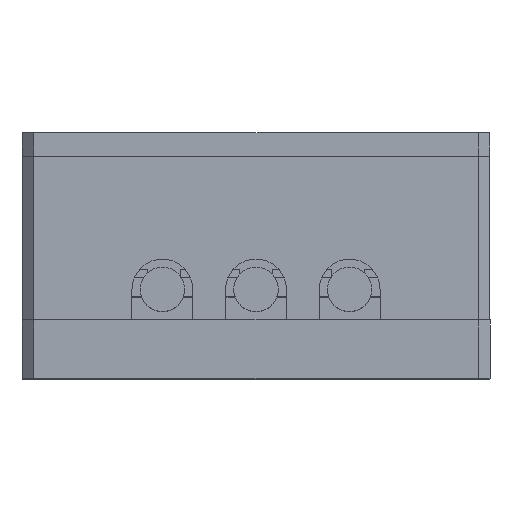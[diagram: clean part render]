
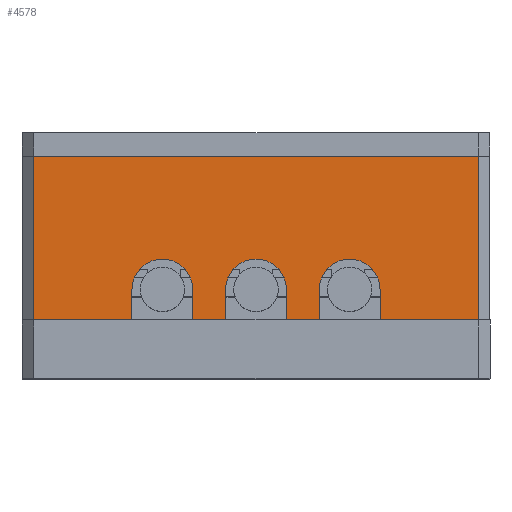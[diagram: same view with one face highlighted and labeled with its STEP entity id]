
A CAD part, top view. The second image highlights one B-rep face of the part: STEP entity #4578.
In plain terms, the highlighted planar face has unit normal (0, 0, 1).
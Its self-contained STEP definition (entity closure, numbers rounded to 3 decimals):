
#129 = CARTESIAN_POINT ( 'NONE',  ( -20., 0., 20. ) ) ;
#133 = EDGE_CURVE ( 'NONE', #3969, #7578, #1209, .T. ) ;
#148 = DIRECTION ( 'NONE',  ( 0., 0., 1. ) ) ;
#168 = CARTESIAN_POINT ( 'NONE',  ( 19., 14., 20. ) ) ;
#193 = DIRECTION ( 'NONE',  ( 0., -1., 0. ) ) ;
#265 = CARTESIAN_POINT ( 'NONE',  ( 5.4, 0., 20. ) ) ;
#371 = CARTESIAN_POINT ( 'NONE',  ( -20., 14., 20. ) ) ;
#472 = VECTOR ( 'NONE', #5222, 1000. ) ;
#493 = CARTESIAN_POINT ( 'NONE',  ( 2.6, 2.6, 20. ) ) ;
#500 = VERTEX_POINT ( 'NONE', #3177 ) ;
#804 = DIRECTION ( 'NONE',  ( -1., 0., 0. ) ) ;
#851 = VECTOR ( 'NONE', #4941, 1000. ) ;
#899 = LINE ( 'NONE', #265, #3714 ) ;
#986 = CARTESIAN_POINT ( 'NONE',  ( -5.4, 2.6, 20. ) ) ;
#990 = ORIENTED_EDGE ( 'NONE', *, *, #3236, .F. ) ;
#1083 = CARTESIAN_POINT ( 'NONE',  ( -5.4, 2.6, 20. ) ) ;
#1209 = LINE ( 'NONE', #493, #1779 ) ;
#1301 = CIRCLE ( 'NONE', #6735, 2.6 ) ;
#1356 = CARTESIAN_POINT ( 'NONE',  ( -20., 0., 20. ) ) ;
#1436 = ORIENTED_EDGE ( 'NONE', *, *, #6503, .F. ) ;
#1516 = CARTESIAN_POINT ( 'NONE',  ( -20., 14., 20. ) ) ;
#1517 = CARTESIAN_POINT ( 'NONE',  ( -20., 0., 20. ) ) ;
#1528 = VERTEX_POINT ( 'NONE', #4165 ) ;
#1531 = ORIENTED_EDGE ( 'NONE', *, *, #4964, .T. ) ;
#1701 = LINE ( 'NONE', #1356, #851 ) ;
#1729 = VECTOR ( 'NONE', #6022, 1000. ) ;
#1779 = VECTOR ( 'NONE', #3539, 1000. ) ;
#1817 = DIRECTION ( 'NONE',  ( 0., -1., 0. ) ) ;
#1827 = VECTOR ( 'NONE', #6046, 1000. ) ;
#2081 = LINE ( 'NONE', #371, #472 ) ;
#2199 = CARTESIAN_POINT ( 'NONE',  ( -2.6, 2.6, 20. ) ) ;
#2225 = DIRECTION ( 'NONE',  ( 1., 0., 0. ) ) ;
#2258 = VECTOR ( 'NONE', #2604, 1000. ) ;
#2386 = CARTESIAN_POINT ( 'NONE',  ( 8., 2.6, 20. ) ) ;
#2387 = CARTESIAN_POINT ( 'NONE',  ( 10.6, 2.6, 20. ) ) ;
#2397 = ORIENTED_EDGE ( 'NONE', *, *, #6827, .F. ) ;
#2437 = ORIENTED_EDGE ( 'NONE', *, *, #5845, .F. ) ;
#2517 = CARTESIAN_POINT ( 'NONE',  ( -8., 2.6, 20. ) ) ;
#2604 = DIRECTION ( 'NONE',  ( 1., 0., 0. ) ) ;
#2620 = CARTESIAN_POINT ( 'NONE',  ( -2.6, 0., 20. ) ) ;
#2756 = LINE ( 'NONE', #2387, #1729 ) ;
#2957 = CARTESIAN_POINT ( 'NONE',  ( -19., 14., 20. ) ) ;
#2970 = EDGE_CURVE ( 'NONE', #3966, #3160, #899, .T. ) ;
#3035 = FACE_OUTER_BOUND ( 'NONE', #5792, .T. ) ;
#3053 = EDGE_CURVE ( 'NONE', #3969, #3160, #3360, .T. ) ;
#3057 = VERTEX_POINT ( 'NONE', #2199 ) ;
#3160 = VERTEX_POINT ( 'NONE', #4107 ) ;
#3170 = CARTESIAN_POINT ( 'NONE',  ( -5.4, 0., 20. ) ) ;
#3177 = CARTESIAN_POINT ( 'NONE',  ( 10.6, 2.6, 20. ) ) ;
#3236 = EDGE_CURVE ( 'NONE', #3057, #7068, #3705, .T. ) ;
#3274 = CARTESIAN_POINT ( 'NONE',  ( 10.6, 0., 20. ) ) ;
#3315 = VERTEX_POINT ( 'NONE', #4304 ) ;
#3360 = LINE ( 'NONE', #1517, #3900 ) ;
#3430 = EDGE_CURVE ( 'NONE', #6289, #1528, #4177, .T. ) ;
#3437 = DIRECTION ( 'NONE',  ( 0., -1., 0. ) ) ;
#3448 = ORIENTED_EDGE ( 'NONE', *, *, #3430, .T. ) ;
#3458 = DIRECTION ( 'NONE',  ( 0., -1., 0. ) ) ;
#3539 = DIRECTION ( 'NONE',  ( 0., 1., 0. ) ) ;
#3565 = VECTOR ( 'NONE', #4505, 1000. ) ;
#3606 = ORIENTED_EDGE ( 'NONE', *, *, #3053, .T. ) ;
#3678 = ORIENTED_EDGE ( 'NONE', *, *, #7215, .T. ) ;
#3705 = LINE ( 'NONE', #2620, #6589 ) ;
#3714 = VECTOR ( 'NONE', #3437, 1000. ) ;
#3732 = AXIS2_PLACEMENT_3D ( 'NONE', #1516, #6309, #4534 ) ;
#3896 = ORIENTED_EDGE ( 'NONE', *, *, #6258, .T. ) ;
#3900 = VECTOR ( 'NONE', #2225, 1000. ) ;
#3917 = DIRECTION ( 'NONE',  ( 0., 0., 1. ) ) ;
#3952 = CARTESIAN_POINT ( 'NONE',  ( -10.6, 0., 20. ) ) ;
#3962 = EDGE_CURVE ( 'NONE', #4128, #500, #2756, .T. ) ;
#3966 = VERTEX_POINT ( 'NONE', #5407 ) ;
#3969 = VERTEX_POINT ( 'NONE', #5947 ) ;
#4004 = CARTESIAN_POINT ( 'NONE',  ( -10.6, 2.6, 20. ) ) ;
#4107 = CARTESIAN_POINT ( 'NONE',  ( 5.4, 0., 20. ) ) ;
#4128 = VERTEX_POINT ( 'NONE', #3274 ) ;
#4165 = CARTESIAN_POINT ( 'NONE',  ( 19., 14., 20. ) ) ;
#4177 = LINE ( 'NONE', #168, #1827 ) ;
#4243 = VECTOR ( 'NONE', #7269, 1000. ) ;
#4304 = CARTESIAN_POINT ( 'NONE',  ( -19., 0., 20. ) ) ;
#4505 = DIRECTION ( 'NONE',  ( 0., 1., 0. ) ) ;
#4534 = DIRECTION ( 'NONE',  ( -1., 0., 0. ) ) ;
#4578 = ADVANCED_FACE ( 'NONE', ( #3035 ), #5095, .F. ) ;
#4669 = EDGE_CURVE ( 'NONE', #6411, #1528, #2081, .T. ) ;
#4679 = CARTESIAN_POINT ( 'NONE',  ( 0., 2.6, 20. ) ) ;
#4699 = LINE ( 'NONE', #4878, #4243 ) ;
#4704 = DIRECTION ( 'NONE',  ( -1., 0., 0. ) ) ;
#4768 = VECTOR ( 'NONE', #3458, 1000. ) ;
#4878 = CARTESIAN_POINT ( 'NONE',  ( -20., 0., 20. ) ) ;
#4941 = DIRECTION ( 'NONE',  ( 1., 0., 0. ) ) ;
#4964 = EDGE_CURVE ( 'NONE', #4128, #6289, #4699, .T. ) ;
#5048 = VECTOR ( 'NONE', #1817, 1000. ) ;
#5095 = PLANE ( 'NONE',  #3732 ) ;
#5127 = DIRECTION ( 'NONE',  ( -1., 0., 0. ) ) ;
#5222 = DIRECTION ( 'NONE',  ( 1., 0., 0. ) ) ;
#5288 = ORIENTED_EDGE ( 'NONE', *, *, #3962, .F. ) ;
#5407 = CARTESIAN_POINT ( 'NONE',  ( 5.4, 2.6, 20. ) ) ;
#5425 = VERTEX_POINT ( 'NONE', #1083 ) ;
#5559 = VERTEX_POINT ( 'NONE', #3170 ) ;
#5636 = ORIENTED_EDGE ( 'NONE', *, *, #6215, .T. ) ;
#5792 = EDGE_LOOP ( 'NONE', ( #3606, #7396, #1436, #5288, #1531, #3448, #6573, #3678, #5636, #2437, #6160, #5935, #3896, #990, #2397, #7381 ) ) ;
#5845 = EDGE_CURVE ( 'NONE', #5906, #7598, #7755, .T. ) ;
#5906 = VERTEX_POINT ( 'NONE', #4004 ) ;
#5935 = ORIENTED_EDGE ( 'NONE', *, *, #7049, .F. ) ;
#5947 = CARTESIAN_POINT ( 'NONE',  ( 2.6, 0., 20. ) ) ;
#5971 = LINE ( 'NONE', #986, #3565 ) ;
#6018 = AXIS2_PLACEMENT_3D ( 'NONE', #2386, #7064, #4704 ) ;
#6022 = DIRECTION ( 'NONE',  ( 0., 1., 0. ) ) ;
#6046 = DIRECTION ( 'NONE',  ( 0., 1., 0. ) ) ;
#6160 = ORIENTED_EDGE ( 'NONE', *, *, #6204, .F. ) ;
#6162 = CIRCLE ( 'NONE', #6018, 2.6 ) ;
#6204 = EDGE_CURVE ( 'NONE', #5425, #5906, #6264, .T. ) ;
#6215 = EDGE_CURVE ( 'NONE', #3315, #7598, #1701, .T. ) ;
#6258 = EDGE_CURVE ( 'NONE', #5559, #7068, #7195, .T. ) ;
#6264 = CIRCLE ( 'NONE', #7632, 2.6 ) ;
#6269 = CARTESIAN_POINT ( 'NONE',  ( 2.6, 2.6, 20. ) ) ;
#6289 = VERTEX_POINT ( 'NONE', #7011 ) ;
#6309 = DIRECTION ( 'NONE',  ( 0., 0., -1. ) ) ;
#6411 = VERTEX_POINT ( 'NONE', #7726 ) ;
#6503 = EDGE_CURVE ( 'NONE', #500, #3966, #6162, .T. ) ;
#6573 = ORIENTED_EDGE ( 'NONE', *, *, #4669, .F. ) ;
#6589 = VECTOR ( 'NONE', #193, 1000. ) ;
#6735 = AXIS2_PLACEMENT_3D ( 'NONE', #4679, #3917, #5127 ) ;
#6827 = EDGE_CURVE ( 'NONE', #7578, #3057, #1301, .T. ) ;
#7011 = CARTESIAN_POINT ( 'NONE',  ( 19., 0., 20. ) ) ;
#7049 = EDGE_CURVE ( 'NONE', #5559, #5425, #5971, .T. ) ;
#7064 = DIRECTION ( 'NONE',  ( 0., 0., 1. ) ) ;
#7068 = VERTEX_POINT ( 'NONE', #7513 ) ;
#7195 = LINE ( 'NONE', #129, #2258 ) ;
#7215 = EDGE_CURVE ( 'NONE', #6411, #3315, #7745, .T. ) ;
#7269 = DIRECTION ( 'NONE',  ( 1., 0., 0. ) ) ;
#7381 = ORIENTED_EDGE ( 'NONE', *, *, #133, .F. ) ;
#7396 = ORIENTED_EDGE ( 'NONE', *, *, #2970, .F. ) ;
#7402 = CARTESIAN_POINT ( 'NONE',  ( -10.6, 0., 20. ) ) ;
#7513 = CARTESIAN_POINT ( 'NONE',  ( -2.6, 0., 20. ) ) ;
#7578 = VERTEX_POINT ( 'NONE', #6269 ) ;
#7598 = VERTEX_POINT ( 'NONE', #7402 ) ;
#7632 = AXIS2_PLACEMENT_3D ( 'NONE', #2517, #148, #804 ) ;
#7726 = CARTESIAN_POINT ( 'NONE',  ( -19., 14., 20. ) ) ;
#7745 = LINE ( 'NONE', #2957, #5048 ) ;
#7755 = LINE ( 'NONE', #3952, #4768 ) ;
